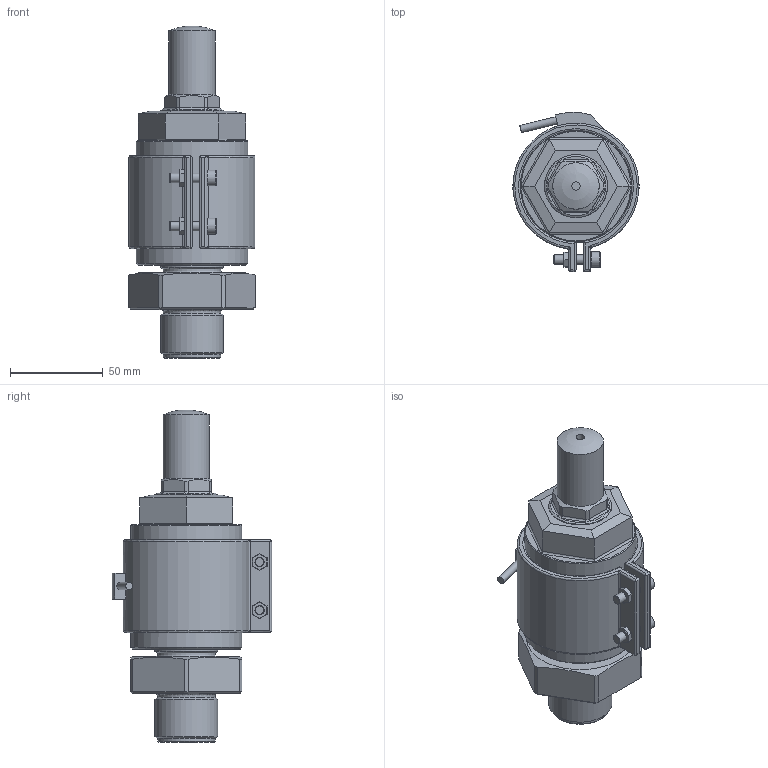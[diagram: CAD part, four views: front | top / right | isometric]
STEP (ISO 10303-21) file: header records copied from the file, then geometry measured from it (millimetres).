
FILE_DESCRIPTION(('STEP AP214'),'1');
FILE_NAME('FF300.stp','2018-06-15T11:36:20',(' '),(' '),'Spatial InterOp 3D',' ',' ');
FILE_SCHEMA(('AUTOMOTIVE_DESIGN { 1 0 10303 214 1 1 1 1 }'));
Length unit declared in the file: millimetre
Products named in the file (1): 1
Bounding box: 68 x 85.83 x 178.91 mm (x, y, z)
Volume: 371428.4 mm3; surface area: 85335.5 mm2
Topology: 9 solids, 9 shells, 251 faces, 566 edges, 335 vertices
Faces by surface type: plane 124, cylinder 71, cone 33, torus 12, bspline 6, revolution 4, sphere 1
Full cylindrical faces by diameter (mm): 4 x1, 4.2 x2, 4.5 x1, 5 x2, 5.5 x4, 8.5 x2, 12 x2, 25 x3, 31 x3, 31.4 x2, 34 x3, 60 x1
Entity records: 9549 total; most frequent: CARTESIAN_POINT 2281, DIRECTION 1095, ORIENTED_EDGE 976, EDGE_CURVE 488, AXIS2_PLACEMENT_3D 419, EDGE_LOOP 333, VERTEX_POINT 319, FACE_OUTER_BOUND 284
